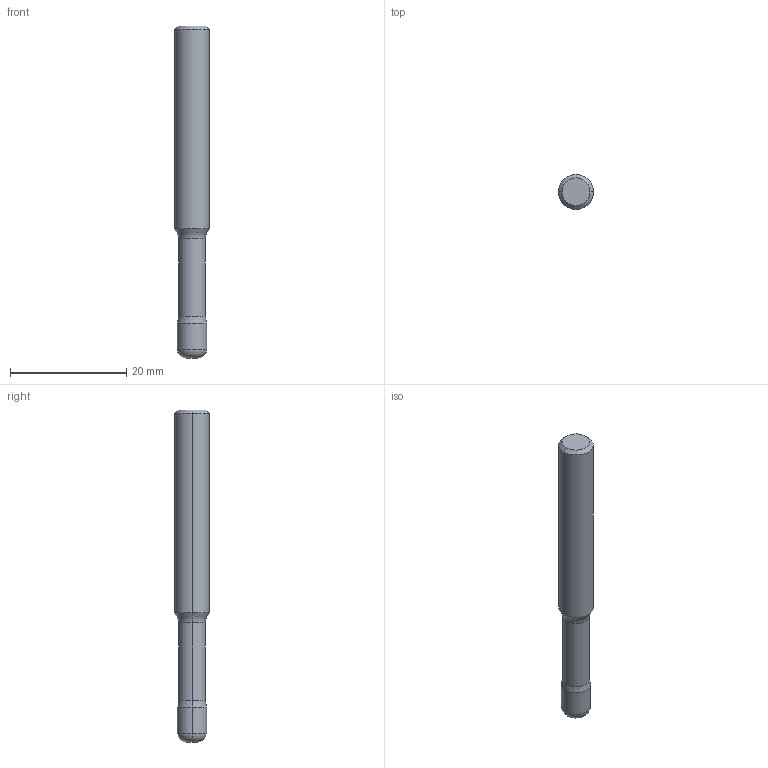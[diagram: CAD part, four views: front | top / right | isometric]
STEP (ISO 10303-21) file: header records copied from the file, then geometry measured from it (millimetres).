
FILE_DESCRIPTION (( 'STEP AP214' ), '1' );
FILE_NAME ('641.050.15_3D-model.step', '2022-02-18T23:17:42', ( '' ), ( '' ), 'SwSTEP 2.0', 'SolidWorks 2020', '' );
FILE_SCHEMA (( 'AUTOMOTIVE_DESIGN' ));
Length unit declared in the file: millimetre
Products named in the file (3): 641.050.15_3D-model; CUT-3D^Baugr105; NOCUT-3D^Baugr105
Assembly tree (2 placements, depth 2):
  641.050.15_3D-model
    CUT-3D^Baugr105
    NOCUT-3D^Baugr105
Bounding box: 6 x 6 x 57 mm (x, y, z)
Volume: 1369.9 mm3; surface area: 1059.8 mm2
Topology: 2 solids, 2 shells, 20 faces, 36 edges, 20 vertices
Faces by surface type: cylinder 6, cone 6, torus 4, plane 4
Entity records: 610 total; most frequent: DIRECTION 116, CARTESIAN_POINT 84, ORIENTED_EDGE 72, AXIS2_PLACEMENT_3D 52, EDGE_CURVE 36, CIRCLE 24, FACE_OUTER_BOUND 20, EDGE_LOOP 20
